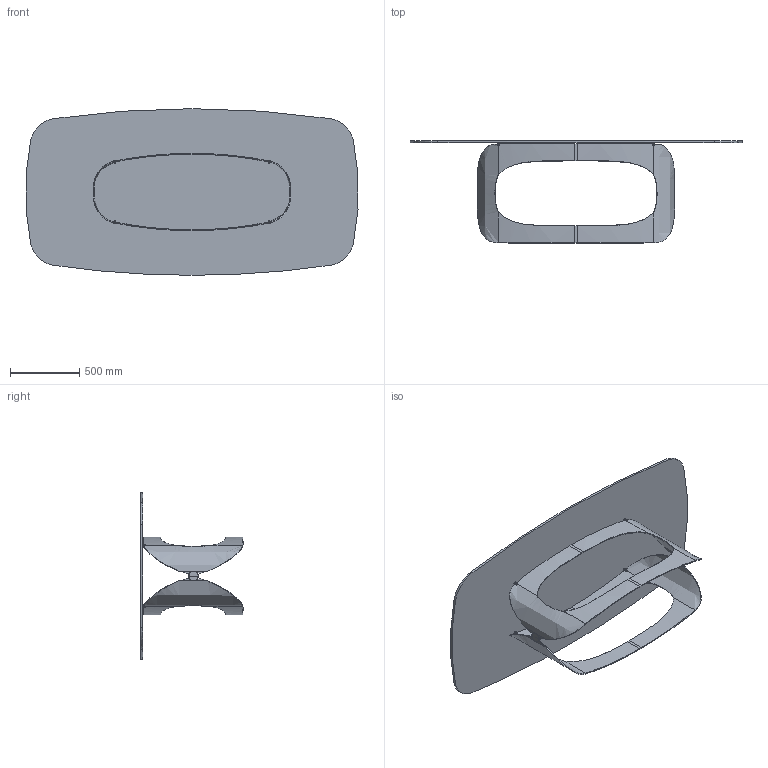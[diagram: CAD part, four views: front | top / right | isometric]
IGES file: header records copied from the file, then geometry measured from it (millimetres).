
Start section: SolidWorks IGES file using analytic representation for surfaces
Global section: file name: Y:\eforma\TECNICO\SOLIDWORKS\E-FORMA\1-TAVOLI\POLIFEMO\02 parts\PO43G_240x120_Glass Shaped.IGS; native system: SolidWorks 2022; preprocessor: SolidWorks 2022; author: eforma.tech; date: 240806.161414; units: millimetre
Bounding box: 2391.62 x 739.97 x 1200 mm (x, y, z)
Volume: 47031852.6 mm3; surface area: 7932161.2 mm2
Topology: 24 solids, 24 shells, 477 faces, 1183 edges, 760 vertices
Faces by surface type: revolution 246, plane 151, bspline 80
